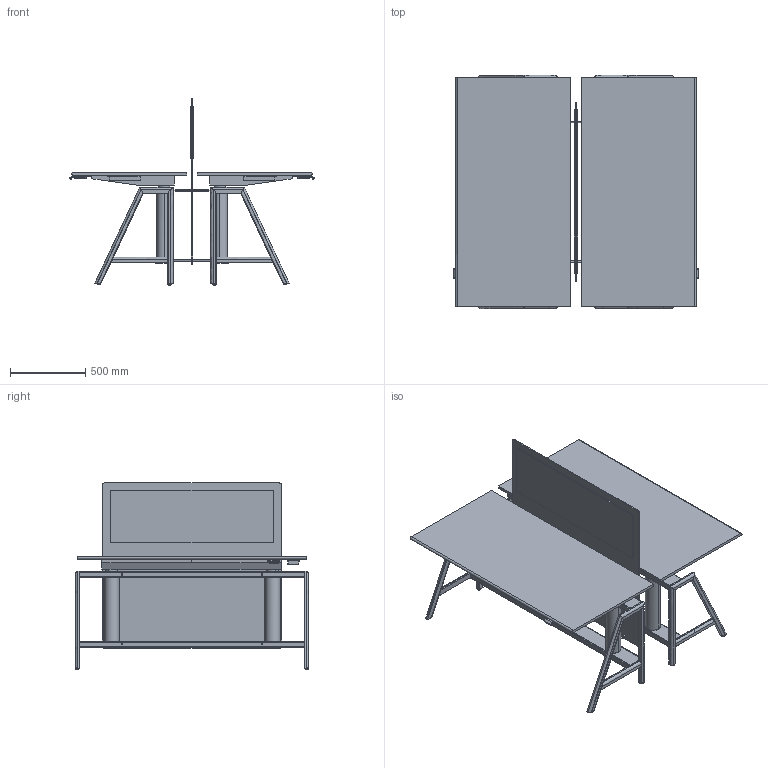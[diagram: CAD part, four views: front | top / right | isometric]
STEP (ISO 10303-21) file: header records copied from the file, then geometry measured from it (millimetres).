
FILE_DESCRIPTION(/* description */ (''),/* implementation_level */ '2;1');
FILE_NAME(/* name */ 'IOCPRO~2',/* time_stamp */ '2023-06-05T11:49:18+02:00',/* author */ (''),/* organization */ (''),/* preprocessor_version */ 'ST-DEVELOPER v16.5',/* originating_system */ '',/* authorisation */ '');
FILE_SCHEMA (('AUTOMOTIVE_DESIGN'));
Products named in the file (1): Document
Bounding box: 1625.97 x 1551 x 1237.36 mm (x, y, z)
Volume: 165384372.3 mm3; surface area: 21222894.8 mm2
Topology: 60 solids, 74 shells, 4836 faces, 12368 edges, 7694 vertices
Faces by surface type: bspline 3212, plane 1624
Entity records: 292827 total; most frequent: CARTESIAN_POINT 220533, ORIENTED_EDGE 24380, EDGE_CURVE 12272, VERTEX_POINT 7694, B_SPLINE_CURVE_WITH_KNOTS 7256, EDGE_LOOP 5056, ADVANCED_FACE 4836, FACE_OUTER_BOUND 4836
